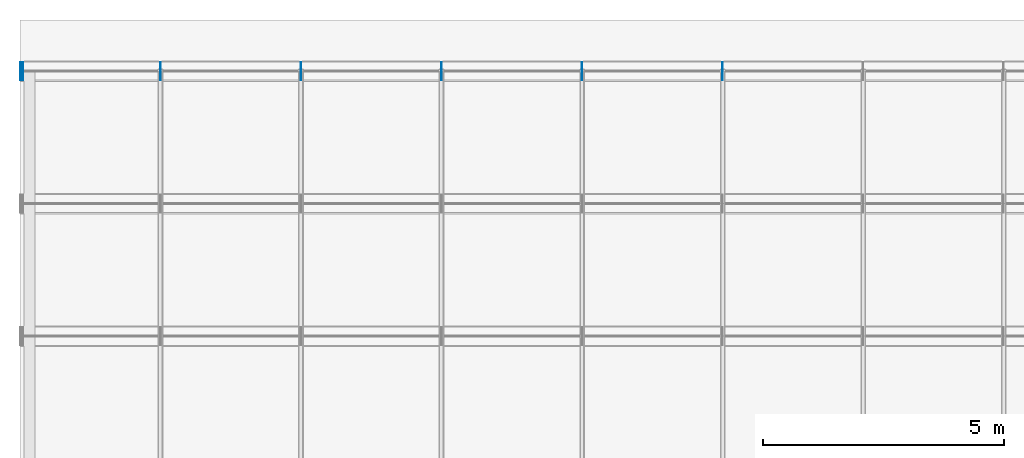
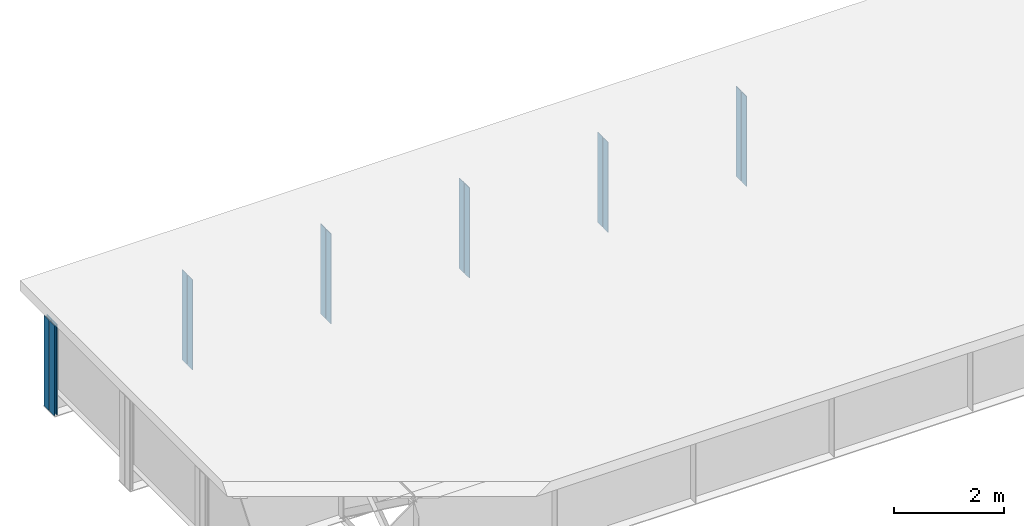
# One storey, part 4 of 13: 14 plates.
"""IFC4 building model written with IfcOpenShell, lengths in metres."""

from ifc_helpers import new_model, si_unit, frame, origin, origin_with_axes, origin_2d_with_axis, place, context, subcontext, project, spatial, rectangle, extrude, element, save


model = new_model("IFC4")

# Units and contexts
model_context = context("Model", 3, precision=1e-05, world=origin())
body_context = subcontext(model_context, "Body", "Model", "MODEL_VIEW")
ifc_project = project(units=[si_unit("LENGTHUNIT", "METRE"), si_unit("AREAUNIT", "SQUARE_METRE"), si_unit("VOLUMEUNIT", "CUBIC_METRE"), si_unit("PLANEANGLEUNIT", "RADIAN")], contexts=[model_context])

# Site, building, storey
site_placement = place(None, origin_with_axes())
site = spatial("IfcSite", under=ifc_project, at=site_placement, Name="Default Site")
building_placement = place(site_placement, origin_with_axes())
building = spatial("IfcBuilding", under=site, at=building_placement, Name="Bridge Structure")
storey_placement = place(building_placement, origin_with_axes())
storey = spatial("IfcBuildingStorey", under=building, at=storey_placement, Name="Superstructure")

# Plates
for number, where, z_axis, x_axis, name in (
    (1, (2.916, 4.22325, -1.005), (0.0, 0.0, 1.0), (1.0, 0.0, 0.0), "Intermediate Stiffener 4"),
    (2, (2.916, 4.02675, -1.005), (0.0, 0.0, 1.0), (1.0, 0.0, 0.0), "Intermediate Stiffener 4"),
    (3, (5.832, 4.22325, -1.005), (0.0, 0.0, 1.0), (1.0, 0.0, 0.0), "Intermediate Stiffener 4"),
    (4, (5.832, 4.02675, -1.005), (0.0, 0.0, 1.0), (1.0, 0.0, 0.0), "Intermediate Stiffener 4"),
    (5, (8.748, 4.22325, -1.005), (0.0, 0.0, 1.0), (1.0, 0.0, 0.0), "Intermediate Stiffener 4"),
    (6, (8.748, 4.02675, -1.005), (0.0, 0.0, 1.0), (1.0, 0.0, 0.0), "Intermediate Stiffener 4"),
    (7, (11.664, 4.22325, -1.005), (0.0, 0.0, 1.0), (1.0, 0.0, 0.0), "Intermediate Stiffener 4"),
    (8, (11.664, 4.02675, -1.005), (0.0, 0.0, 1.0), (1.0, 0.0, 0.0), "Intermediate Stiffener 4"),
    (9, (14.58, 4.22325, -1.005), (0.0, 0.0, 1.0), (1.0, 0.0, 0.0), "Intermediate Stiffener 4"),
    (10, (14.58, 4.02675, -1.005), (0.0, 0.0, 1.0), (1.0, 0.0, 0.0), "Intermediate Stiffener 4"),
):
    element("IfcPlate", number, at=place(storey_placement, frame(where, z_axis=z_axis, x_axis=x_axis)), inside=storey, Name=name, context=body_context, shape_type="SweptSolid", body=[
        extrude(rectangle(XDim=0.012, YDim=0.1785, at=origin_2d_with_axis()), origin_with_axes(), (0.0, 0.0, 1.0), 2.01),
    ])
for number, where, z_axis, x_axis, name in (
    (11, (0.01, 4.22325, -1.005), (0.0, 0.0, 1.0), (1.0, 0.0, 0.0), "End Stiffener 4"),
    (12, (0.01, 4.02675, -1.005), (0.0, 0.0, 1.0), (1.0, 0.0, 0.0), "End Stiffener 4"),
    (13, (0.06, 4.22325, -1.005), (0.0, 0.0, 1.0), (1.0, 0.0, 0.0), "End Stiffener 4"),
    (14, (0.06, 4.02675, -1.005), (0.0, 0.0, 1.0), (1.0, 0.0, 0.0), "End Stiffener 4"),
):
    element("IfcPlate", number, at=place(storey_placement, frame(where, z_axis=z_axis, x_axis=x_axis)), inside=storey, Name=name, context=body_context, shape_type="SweptSolid", body=[
        extrude(rectangle(XDim=0.02, YDim=0.1785, at=origin_2d_with_axis()), origin_with_axes(), (0.0, 0.0, 1.0), 2.01),
    ])

save(model, "model.ifc")
